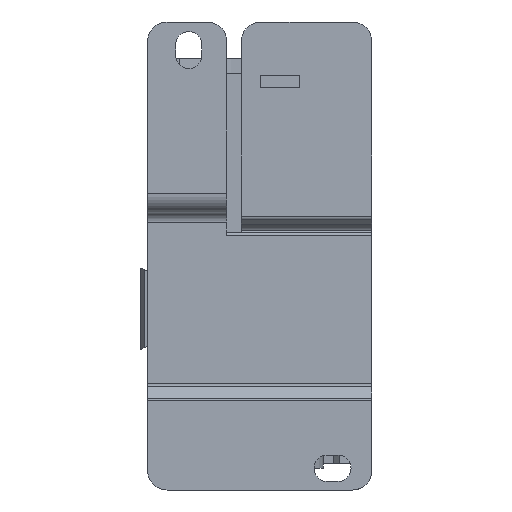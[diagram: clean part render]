
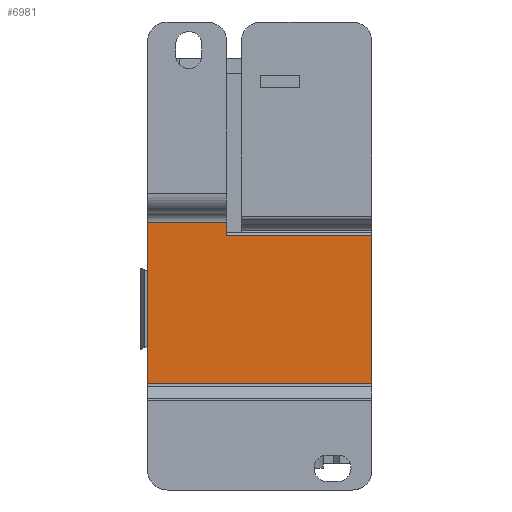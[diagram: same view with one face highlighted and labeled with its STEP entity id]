
A CAD part, front view. The second image highlights one B-rep face of the part: STEP entity #6981.
In plain terms, the highlighted planar face has unit normal (0, -1, 0).
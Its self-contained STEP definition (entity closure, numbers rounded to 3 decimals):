
#216=LINE('',#10731,#935);
#254=LINE('',#10852,#973);
#256=LINE('',#10856,#975);
#257=LINE('',#10857,#976);
#258=LINE('',#10859,#977);
#259=LINE('',#10861,#978);
#935=VECTOR('',#8571,1000.);
#973=VECTOR('',#8679,1000.);
#975=VECTOR('',#8683,1000.);
#976=VECTOR('',#8684,1000.);
#977=VECTOR('',#8685,1000.);
#978=VECTOR('',#8686,1000.);
#1535=PLANE('',#7503);
#2264=ORIENTED_EDGE('',*,*,#4077,.F.);
#2265=ORIENTED_EDGE('',*,*,#4136,.F.);
#2266=ORIENTED_EDGE('',*,*,#4134,.F.);
#2267=ORIENTED_EDGE('',*,*,#4137,.T.);
#2268=ORIENTED_EDGE('',*,*,#4138,.F.);
#2269=ORIENTED_EDGE('',*,*,#4139,.F.);
#4077=EDGE_CURVE('',#5036,#5035,#216,.T.);
#4134=EDGE_CURVE('',#5076,#5077,#254,.T.);
#4136=EDGE_CURVE('',#5077,#5036,#256,.T.);
#4137=EDGE_CURVE('',#5076,#5078,#257,.T.);
#4138=EDGE_CURVE('',#5079,#5078,#258,.T.);
#4139=EDGE_CURVE('',#5035,#5079,#259,.T.);
#5035=VERTEX_POINT('',#10728);
#5036=VERTEX_POINT('',#10730);
#5076=VERTEX_POINT('',#10851);
#5077=VERTEX_POINT('',#10853);
#5078=VERTEX_POINT('',#10858);
#5079=VERTEX_POINT('',#10860);
#5984=EDGE_LOOP('',(#2264,#2265,#2266,#2267,#2268,#2269));
#6417=FACE_BOUND('',#5984,.T.);
#6981=ADVANCED_FACE('',(#6417),#1535,.T.);
#7503=AXIS2_PLACEMENT_3D('',#10855,#8681,#8682);
#8571=DIRECTION('',(1.,0.,0.));
#8679=DIRECTION('',(-1.,0.,0.));
#8681=DIRECTION('',(0.,-1.,0.));
#8682=DIRECTION('',(-1.,0.,0.));
#8683=DIRECTION('',(0.,0.,1.));
#8684=DIRECTION('',(0.,0.,1.));
#8685=DIRECTION('',(1.,0.,0.));
#8686=DIRECTION('',(0.,0.,-1.));
#10728=CARTESIAN_POINT('',(-6.75,6.,-30.65));
#10730=CARTESIAN_POINT('',(-23.,6.,-30.65));
#10731=CARTESIAN_POINT('',(-37.,6.,-30.65));
#10851=CARTESIAN_POINT('',(23.,6.,-65.51));
#10852=CARTESIAN_POINT('',(23.,6.,-65.51));
#10853=CARTESIAN_POINT('',(-23.,6.,-65.51));
#10855=CARTESIAN_POINT('',(-37.,6.,-31.15));
#10856=CARTESIAN_POINT('',(-23.,6.,-65.51));
#10857=CARTESIAN_POINT('',(23.,6.,-65.51));
#10858=CARTESIAN_POINT('',(23.,6.,-33.25));
#10859=CARTESIAN_POINT('',(-6.75,6.,-33.25));
#10860=CARTESIAN_POINT('',(-6.75,6.,-33.25));
#10861=CARTESIAN_POINT('',(-6.75,6.,-30.65));
